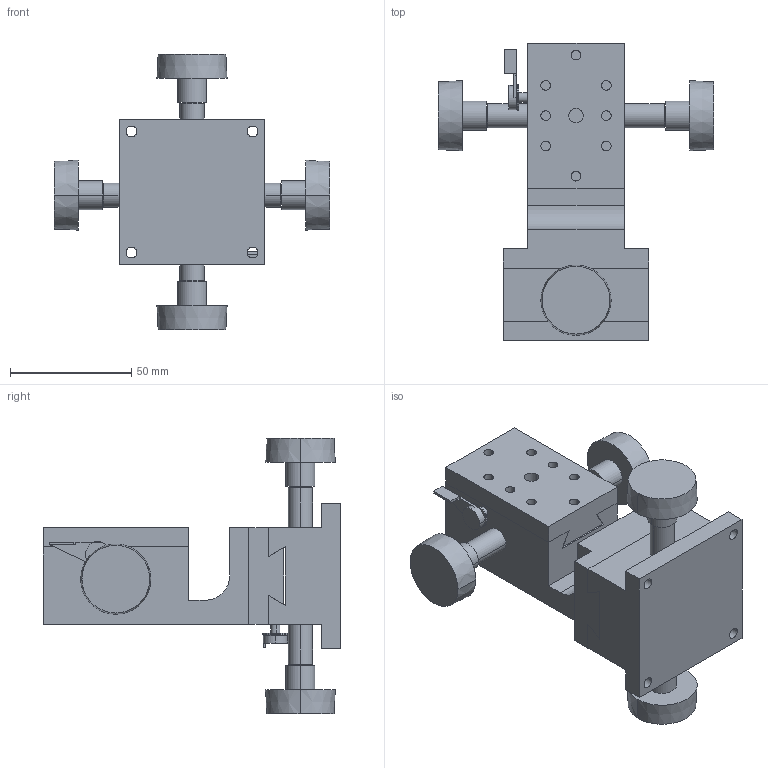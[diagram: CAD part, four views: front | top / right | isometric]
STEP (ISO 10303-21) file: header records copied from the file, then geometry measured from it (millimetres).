
FILE_DESCRIPTION (( 'STEP AP203' ), '1' );
FILE_NAME ('LM-612W.STEP', '2008-03-04T00:15:54', ( '' ), ( '' ), 'SwSTEP 2.0', 'SolidWorks 2007', '' );
FILE_SCHEMA (( 'CONFIG_CONTROL_DESIGN' ));
Length unit declared in the file: millimetre
Products named in the file (4): LM-612W-1; LM-612W-2; LM-612W; LM-612W-3
Assembly tree (3 placements, depth 2):
  LM-612W
    LM-612W-3
    LM-612W-2
    LM-612W-1
Bounding box: 114 x 123 x 114 mm (x, y, z)
Volume: 248364.2 mm3; surface area: 61470.3 mm2
Topology: 3 solids, 5 shells, 236 faces, 555 edges, 368 vertices
Faces by surface type: plane 123, cylinder 105, cone 8
Entity records: 7321 total; most frequent: DIRECTION 1271, CARTESIAN_POINT 1165, ORIENTED_EDGE 1110, EDGE_CURVE 555, AXIS2_PLACEMENT_3D 474, VERTEX_POINT 368, VECTOR 323, LINE 323
